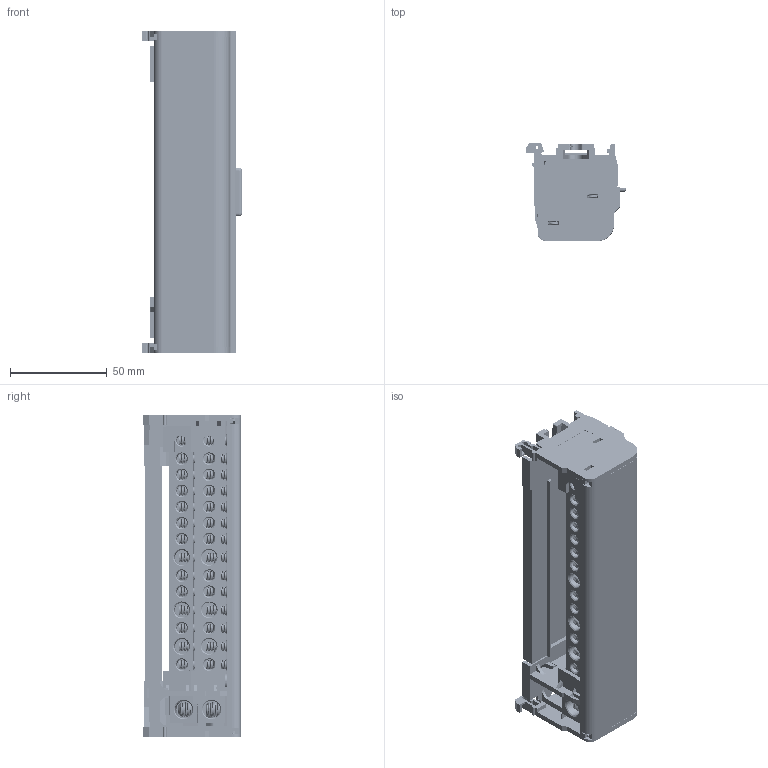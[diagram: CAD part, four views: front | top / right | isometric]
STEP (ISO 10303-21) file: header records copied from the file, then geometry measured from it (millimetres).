
FILE_DESCRIPTION(/* description */ (''),/* implementation_level */ '2;1');
FILE_NAME(/* name */ 'UK215.stp',/* time_stamp */ '2019-12-10T14:51:34+08:00',/* author */ (''),/* organization */ (''),/* preprocessor_version */ 'ST-DEVELOPER v16',/* originating_system */ 'SIEMENS PLM Software NX 10.0',/* authorisation */ '');
FILE_SCHEMA (('AUTOMOTIVE_DESIGN { 1 0 10303 214 3 1 1 1 }'));
Products named in the file (1): Admi1A6064079uyu
Bounding box: 51.5 x 50.5 x 166 mm (x, y, z)
Volume: 86031.6 mm3; surface area: 105263.6 mm2
Topology: 43 solids, 43 shells, 1673 faces, 4688 edges, 3090 vertices
Faces by surface type: plane 1182, cylinder 260, bspline 125, cone 74, torus 30, sphere 2
Full cylindrical faces by diameter (mm): 4.3 x30, 5.5 x22, 6 x2, 6.5 x28, 7.7 x6, 8 x2, 9 x2
Entity records: 158878 total; most frequent: CARTESIAN_POINT 116860, ORIENTED_EDGE 8796, DIRECTION 7474, EDGE_CURVE 4398, LINE 3048, VECTOR 3048, VERTEX_POINT 2996, AXIS2_PLACEMENT_3D 2213
